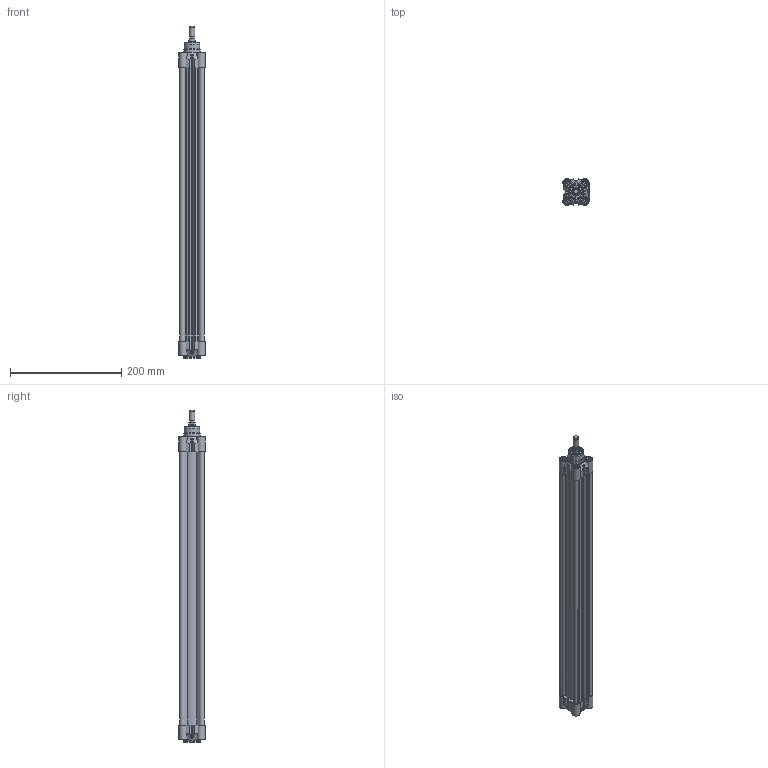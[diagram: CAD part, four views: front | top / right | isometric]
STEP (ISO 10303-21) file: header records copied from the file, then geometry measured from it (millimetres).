
FILE_DESCRIPTION(/* description */ ('CILINDRO D.E. MAGNETICO AMMORTIZZATO ISO 15552'),/* implementation_level */ '2;1');
FILE_NAME(/* name */ 'T:\Archivio Inventor\- 00 NUOVI STP PER SITO CON STELO CHE SI MUOVE\SERIE H - U\SERIE HDM\HDM032-TUBO NUOVO\HDM032.450.GS.M.stp',/* time_stamp */ '2018-07-25T14:28:58+02:00',/* author */ ('carlo.corazza'),/* organization */ (''),/* preprocessor_version */ 'ST-DEVELOPER v16.5',/* originating_system */ 'Autodesk Inventor 2017',/* authorisation */ '');
FILE_SCHEMA (('AUTOMOTIVE_DESIGN { 1 0 10303 214 3 1 1 }'));
Length unit declared in the file: millimetre
Products named in the file (5): HDM032.450.GS.M; TP; STELO-450; TA; CORPO-450
Assembly tree (4 placements, depth 2):
  HDM032.450.GS.M
    TP
    STELO-450
    TA
    CORPO-450
Bounding box: 47 x 47 x 596 mm (x, y, z)
Volume: 400883 mm3; surface area: 294056.9 mm2
Topology: 4 solids, 18 shells, 969 faces, 2356 edges, 1494 vertices
Faces by surface type: plane 330, cylinder 260, bspline 190, cone 86, torus 83, sphere 20
Full cylindrical faces by diameter (mm): 2 x2, 2.1 x2, 4 x2, 4.5 x2, 4.917 x8, 6 x8, 6.2 x8, 6.3 x4, 7 x2, 7.8 x4, 7.9 x3, 8 x4, 8.566 x2, 10 x9, 10.3 x8, 11.6 x1, 12 x1, 12.8 x1, 12.847 x1, 16 x1, 17 x2, 22 x3, 28 x1, 30 x2, 32 x1
Entity records: 31186 total; most frequent: CARTESIAN_POINT 9171, ORIENTED_EDGE 4162, DIRECTION 4048, EDGE_CURVE 2081, AXIS2_PLACEMENT_3D 1569, VERTEX_POINT 1436, EDGE_LOOP 1302, FACE_OUTER_BOUND 969
